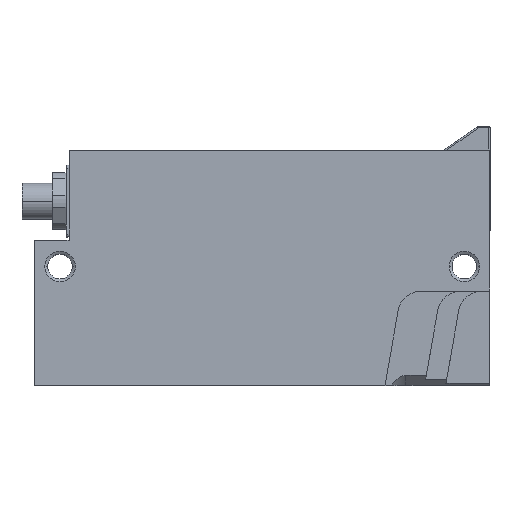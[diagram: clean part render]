
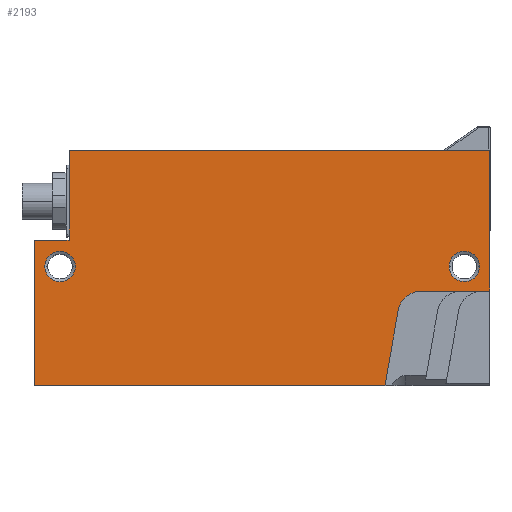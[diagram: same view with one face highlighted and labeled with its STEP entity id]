
A CAD part, top view. The second image highlights one B-rep face of the part: STEP entity #2193.
In plain terms, the highlighted planar face has unit normal (0, 0, 1).
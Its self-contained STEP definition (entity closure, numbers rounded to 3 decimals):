
#65 = EDGE_CURVE ( 'NONE', #4360, #3389, #2405, .T. ) ;
#66 = VERTEX_POINT ( 'NONE', #3348 ) ;
#135 = DIRECTION ( 'NONE',  ( -1., 0., 0. ) ) ;
#145 = ORIENTED_EDGE ( 'NONE', *, *, #5594, .F. ) ;
#213 = DIRECTION ( 'NONE',  ( 0., 1., 0. ) ) ;
#244 = LINE ( 'NONE', #4402, #5553 ) ;
#261 = EDGE_LOOP ( 'NONE', ( #3088, #1665, #1235, #2888, #2616, #535, #4699, #3557, #5776 ) ) ;
#321 = VECTOR ( 'NONE', #6094, 1000. ) ;
#436 = VERTEX_POINT ( 'NONE', #5133 ) ;
#535 = ORIENTED_EDGE ( 'NONE', *, *, #3758, .F. ) ;
#618 = VERTEX_POINT ( 'NONE', #4889 ) ;
#629 = AXIS2_PLACEMENT_3D ( 'NONE', #6321, #1344, #4828 ) ;
#821 = LINE ( 'NONE', #2791, #6133 ) ;
#896 = ORIENTED_EDGE ( 'NONE', *, *, #5624, .F. ) ;
#1020 = DIRECTION ( 'NONE',  ( -1., 0., 0. ) ) ;
#1054 = CARTESIAN_POINT ( 'NONE',  ( -76., 39.25, 12. ) ) ;
#1116 = CARTESIAN_POINT ( 'NONE',  ( -67.5, 0.45, 12. ) ) ;
#1130 = FACE_OUTER_BOUND ( 'NONE', #261, .T. ) ;
#1235 = ORIENTED_EDGE ( 'NONE', *, *, #65, .F. ) ;
#1344 = DIRECTION ( 'NONE',  ( 0., 0., 1. ) ) ;
#1422 = DIRECTION ( 'NONE',  ( -1., 0., 0. ) ) ;
#1442 = VERTEX_POINT ( 'NONE', #1835 ) ;
#1450 = VERTEX_POINT ( 'NONE', #3845 ) ;
#1576 = EDGE_CURVE ( 'NONE', #4360, #1442, #2075, .T. ) ;
#1630 = DIRECTION ( 'NONE',  ( 1., 0., 0. ) ) ;
#1665 = ORIENTED_EDGE ( 'NONE', *, *, #4966, .F. ) ;
#1835 = CARTESIAN_POINT ( 'NONE',  ( 76., 39.25, 12. ) ) ;
#2014 = AXIS2_PLACEMENT_3D ( 'NONE', #5319, #2337, #5832 ) ;
#2070 = ORIENTED_EDGE ( 'NONE', *, *, #3475, .F. ) ;
#2075 = LINE ( 'NONE', #6203, #4413 ) ;
#2077 = CIRCLE ( 'NONE', #2969, 8. ) ;
#2079 = CARTESIAN_POINT ( 'NONE',  ( -76., -39.25, 12. ) ) ;
#2129 = ORIENTED_EDGE ( 'NONE', *, *, #3325, .F. ) ;
#2140 = FACE_BOUND ( 'NONE', #6408, .T. ) ;
#2193 = ADVANCED_FACE ( 'NONE', ( #1130, #3453, #2140 ), #5305, .T. ) ;
#2237 = VECTOR ( 'NONE', #1020, 1000. ) ;
#2337 = DIRECTION ( 'NONE',  ( 0., 0., 1. ) ) ;
#2350 = CARTESIAN_POINT ( 'NONE',  ( -72.575, 0.45, 12. ) ) ;
#2405 = LINE ( 'NONE', #4363, #2237 ) ;
#2579 = CARTESIAN_POINT ( 'NONE',  ( -64.5, 39.25, 12. ) ) ;
#2616 = ORIENTED_EDGE ( 'NONE', *, *, #2653, .T. ) ;
#2653 = EDGE_CURVE ( 'NONE', #1442, #66, #4383, .T. ) ;
#2707 = CARTESIAN_POINT ( 'NONE',  ( 41., -39.25, 12. ) ) ;
#2709 = CARTESIAN_POINT ( 'NONE',  ( 67.5, 0.45, 12. ) ) ;
#2746 = DIRECTION ( 'NONE',  ( 0., 0., 1. ) ) ;
#2791 = CARTESIAN_POINT ( 'NONE',  ( 45.389, -14.361, 12. ) ) ;
#2802 = CIRCLE ( 'NONE', #5818, 5.075 ) ;
#2888 = ORIENTED_EDGE ( 'NONE', *, *, #1576, .T. ) ;
#2956 = LINE ( 'NONE', #2579, #321 ) ;
#2969 = AXIS2_PLACEMENT_3D ( 'NONE', #6108, #3103, #135 ) ;
#3046 = DIRECTION ( 'NONE',  ( -1., 0., 0. ) ) ;
#3048 = VECTOR ( 'NONE', #3046, 1000. ) ;
#3088 = ORIENTED_EDGE ( 'NONE', *, *, #6234, .F. ) ;
#3103 = DIRECTION ( 'NONE',  ( 0., 0., 1. ) ) ;
#3213 = DIRECTION ( 'NONE',  ( 1., 0., 0. ) ) ;
#3325 = EDGE_CURVE ( 'NONE', #4096, #436, #2802, .T. ) ;
#3348 = CARTESIAN_POINT ( 'NONE',  ( -64.5, 39.25, 12. ) ) ;
#3389 = VERTEX_POINT ( 'NONE', #5764 ) ;
#3426 = LINE ( 'NONE', #5528, #4602 ) ;
#3453 = FACE_BOUND ( 'NONE', #6081, .T. ) ;
#3475 = EDGE_CURVE ( 'NONE', #436, #4096, #6023, .T. ) ;
#3482 = VERTEX_POINT ( 'NONE', #3800 ) ;
#3509 = DIRECTION ( 'NONE',  ( 1., 0., 0. ) ) ;
#3557 = ORIENTED_EDGE ( 'NONE', *, *, #4987, .T. ) ;
#3584 = EDGE_CURVE ( 'NONE', #3482, #1450, #244, .T. ) ;
#3698 = CIRCLE ( 'NONE', #4404, 5.075 ) ;
#3716 = EDGE_CURVE ( 'NONE', #5565, #4575, #3426, .T. ) ;
#3758 = EDGE_CURVE ( 'NONE', #3482, #66, #2956, .T. ) ;
#3800 = CARTESIAN_POINT ( 'NONE',  ( -64.5, 9.25, 12. ) ) ;
#3845 = CARTESIAN_POINT ( 'NONE',  ( -76., 9.25, 12. ) ) ;
#4088 = VERTEX_POINT ( 'NONE', #2350 ) ;
#4096 = VERTEX_POINT ( 'NONE', #4355 ) ;
#4355 = CARTESIAN_POINT ( 'NONE',  ( 72.575, 0.45, 12. ) ) ;
#4360 = VERTEX_POINT ( 'NONE', #5070 ) ;
#4363 = CARTESIAN_POINT ( 'NONE',  ( 76., -7.75, 12. ) ) ;
#4383 = LINE ( 'NONE', #1054, #3048 ) ;
#4402 = CARTESIAN_POINT ( 'NONE',  ( -64.5, 9.25, 12. ) ) ;
#4404 = AXIS2_PLACEMENT_3D ( 'NONE', #1116, #4601, #1630 ) ;
#4413 = VECTOR ( 'NONE', #213, 1000. ) ;
#4575 = VERTEX_POINT ( 'NONE', #2707 ) ;
#4601 = DIRECTION ( 'NONE',  ( 0., 0., 1. ) ) ;
#4602 = VECTOR ( 'NONE', #3509, 1000. ) ;
#4699 = ORIENTED_EDGE ( 'NONE', *, *, #3584, .T. ) ;
#4704 = VERTEX_POINT ( 'NONE', #4850 ) ;
#4828 = DIRECTION ( 'NONE',  ( 1., 0., 0. ) ) ;
#4850 = CARTESIAN_POINT ( 'NONE',  ( -62.425, 0.45, 12. ) ) ;
#4889 = CARTESIAN_POINT ( 'NONE',  ( 45.389, -14.361, 12. ) ) ;
#4966 = EDGE_CURVE ( 'NONE', #3389, #618, #2077, .T. ) ;
#4987 = EDGE_CURVE ( 'NONE', #1450, #5565, #5912, .T. ) ;
#5062 = AXIS2_PLACEMENT_3D ( 'NONE', #6036, #2746, #6258 ) ;
#5070 = CARTESIAN_POINT ( 'NONE',  ( 76., -7.75, 12. ) ) ;
#5109 = CARTESIAN_POINT ( 'NONE',  ( -76., 39.25, 12. ) ) ;
#5133 = CARTESIAN_POINT ( 'NONE',  ( 62.425, 0.45, 12. ) ) ;
#5305 = PLANE ( 'NONE',  #629 ) ;
#5319 = CARTESIAN_POINT ( 'NONE',  ( 67.5, 0.45, 12. ) ) ;
#5528 = CARTESIAN_POINT ( 'NONE',  ( -76., -39.25, 12. ) ) ;
#5553 = VECTOR ( 'NONE', #1422, 1000. ) ;
#5565 = VERTEX_POINT ( 'NONE', #2079 ) ;
#5594 = EDGE_CURVE ( 'NONE', #4704, #4088, #3698, .T. ) ;
#5604 = DIRECTION ( 'NONE',  ( 0., -1., 0. ) ) ;
#5624 = EDGE_CURVE ( 'NONE', #4088, #4704, #6072, .T. ) ;
#5743 = VECTOR ( 'NONE', #5604, 1000. ) ;
#5764 = CARTESIAN_POINT ( 'NONE',  ( 53.267, -7.75, 12. ) ) ;
#5776 = ORIENTED_EDGE ( 'NONE', *, *, #3716, .T. ) ;
#5818 = AXIS2_PLACEMENT_3D ( 'NONE', #2709, #6227, #3213 ) ;
#5832 = DIRECTION ( 'NONE',  ( 1., 0., 0. ) ) ;
#5912 = LINE ( 'NONE', #5109, #5743 ) ;
#6023 = CIRCLE ( 'NONE', #2014, 5.075 ) ;
#6036 = CARTESIAN_POINT ( 'NONE',  ( -67.5, 0.45, 12. ) ) ;
#6072 = CIRCLE ( 'NONE', #5062, 5.075 ) ;
#6081 = EDGE_LOOP ( 'NONE', ( #2129, #2070 ) ) ;
#6094 = DIRECTION ( 'NONE',  ( 0., 1., 0. ) ) ;
#6108 = CARTESIAN_POINT ( 'NONE',  ( 53.267, -15.75, 12. ) ) ;
#6133 = VECTOR ( 'NONE', #6304, 1000. ) ;
#6203 = CARTESIAN_POINT ( 'NONE',  ( 76., 39.25, 12. ) ) ;
#6227 = DIRECTION ( 'NONE',  ( 0., 0., 1. ) ) ;
#6234 = EDGE_CURVE ( 'NONE', #618, #4575, #821, .T. ) ;
#6258 = DIRECTION ( 'NONE',  ( 1., 0., 0. ) ) ;
#6304 = DIRECTION ( 'NONE',  ( -0.174, -0.985, 0. ) ) ;
#6321 = CARTESIAN_POINT ( 'NONE',  ( 0., 0., 12. ) ) ;
#6408 = EDGE_LOOP ( 'NONE', ( #145, #896 ) ) ;
